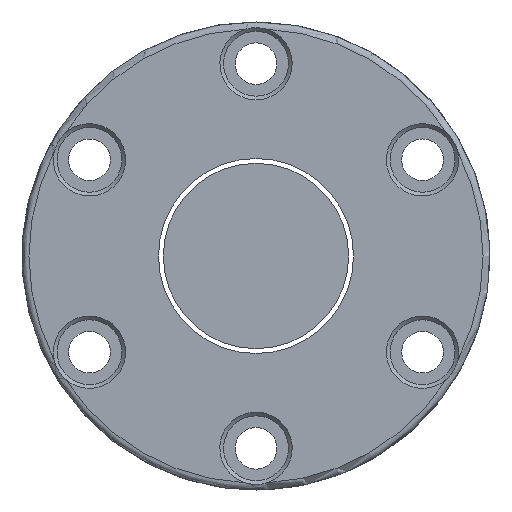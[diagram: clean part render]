
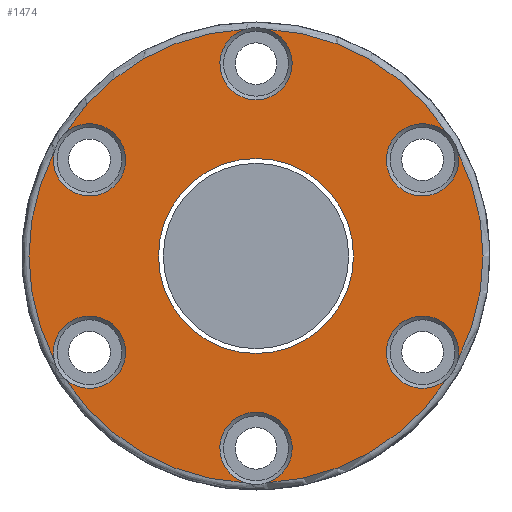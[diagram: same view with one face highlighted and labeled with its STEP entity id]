
A CAD part, left-side view. The second image highlights one B-rep face of the part: STEP entity #1474.
In plain terms, the highlighted planar face has unit normal (-1, 0, 0).
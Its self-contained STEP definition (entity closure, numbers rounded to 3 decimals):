
#36 = VERTEX_POINT ( 'NONE', #2769 ) ;
#50 = VERTEX_POINT ( 'NONE', #1867 ) ;
#80 = EDGE_CURVE ( 'NONE', #821, #2416, #1676, .T. ) ;
#82 = ORIENTED_EDGE ( 'NONE', *, *, #1214, .T. ) ;
#87 = CARTESIAN_POINT ( 'NONE',  ( -59., 0., -41.5 ) ) ;
#89 = DIRECTION ( 'NONE',  ( 0., 0., 1. ) ) ;
#93 = CARTESIAN_POINT ( 'NONE',  ( -59., 0., 0. ) ) ;
#119 = ORIENTED_EDGE ( 'NONE', *, *, #2979, .T. ) ;
#159 = CIRCLE ( 'NONE', #745, 7.8 ) ;
#165 = VERTEX_POINT ( 'NONE', #1744 ) ;
#230 = AXIS2_PLACEMENT_3D ( 'NONE', #2290, #2453, #1074 ) ;
#268 = CIRCLE ( 'NONE', #2262, 7.8 ) ;
#269 = VERTEX_POINT ( 'NONE', #2245 ) ;
#272 = AXIS2_PLACEMENT_3D ( 'NONE', #293, #1141, #2829 ) ;
#293 = CARTESIAN_POINT ( 'NONE',  ( -59., -35.94, 20.75 ) ) ;
#297 = ORIENTED_EDGE ( 'NONE', *, *, #758, .T. ) ;
#302 = CARTESIAN_POINT ( 'NONE',  ( -59., 0., -21.05 ) ) ;
#323 = AXIS2_PLACEMENT_3D ( 'NONE', #2960, #2036, #2757 ) ;
#332 = VERTEX_POINT ( 'NONE', #2135 ) ;
#338 = DIRECTION ( 'NONE',  ( 1., 0., 0. ) ) ;
#347 = EDGE_CURVE ( 'NONE', #332, #269, #1532, .T. ) ;
#357 = DIRECTION ( 'NONE',  ( 1., 0., 0. ) ) ;
#361 = VERTEX_POINT ( 'NONE', #1011 ) ;
#409 = CARTESIAN_POINT ( 'NONE',  ( -59., 0., 0. ) ) ;
#437 = ORIENTED_EDGE ( 'NONE', *, *, #2779, .T. ) ;
#438 = CARTESIAN_POINT ( 'NONE',  ( -59., -35.94, -20.75 ) ) ;
#441 = FACE_OUTER_BOUND ( 'NONE', #819, .T. ) ;
#498 = EDGE_CURVE ( 'NONE', #361, #165, #268, .T. ) ;
#521 = DIRECTION ( 'NONE',  ( 0., 0., 1. ) ) ;
#582 = CARTESIAN_POINT ( 'NONE',  ( -59., 0., 0. ) ) ;
#584 = CARTESIAN_POINT ( 'NONE',  ( -59., -41.224, 26.488 ) ) ;
#593 = AXIS2_PLACEMENT_3D ( 'NONE', #2086, #918, #1624 ) ;
#739 = EDGE_CURVE ( 'NONE', #1224, #50, #2763, .T. ) ;
#745 = AXIS2_PLACEMENT_3D ( 'NONE', #1477, #2186, #1465 ) ;
#756 = AXIS2_PLACEMENT_3D ( 'NONE', #87, #1476, #521 ) ;
#758 = EDGE_CURVE ( 'NONE', #1954, #821, #1052, .T. ) ;
#804 = ORIENTED_EDGE ( 'NONE', *, *, #1811, .T. ) ;
#806 = CIRCLE ( 'NONE', #272, 7.8 ) ;
#811 = CIRCLE ( 'NONE', #2125, 49. ) ;
#816 = DIRECTION ( 'NONE',  ( -1., 0., 0. ) ) ;
#819 = EDGE_LOOP ( 'NONE', ( #837, #2263, #119, #804, #2730, #2624, #2681, #437, #2462, #1279, #2967, #297 ) ) ;
#821 = VERTEX_POINT ( 'NONE', #1320 ) ;
#837 = ORIENTED_EDGE ( 'NONE', *, *, #80, .T. ) ;
#918 = DIRECTION ( 'NONE',  ( -1., 0., 0. ) ) ;
#1004 = EDGE_CURVE ( 'NONE', #1835, #1954, #806, .T. ) ;
#1011 = CARTESIAN_POINT ( 'NONE',  ( -59., 43.551, -22.457 ) ) ;
#1030 = DIRECTION ( 'NONE',  ( 0., 0., 1. ) ) ;
#1052 = CIRCLE ( 'NONE', #230, 49. ) ;
#1064 = CARTESIAN_POINT ( 'NONE',  ( -59., 0., 0. ) ) ;
#1074 = DIRECTION ( 'NONE',  ( 0., 0., 1. ) ) ;
#1115 = DIRECTION ( 'NONE',  ( 1., 0., 0. ) ) ;
#1118 = PLANE ( 'NONE',  #323 ) ;
#1141 = DIRECTION ( 'NONE',  ( 1., 0., 0. ) ) ;
#1210 = AXIS2_PLACEMENT_3D ( 'NONE', #1064, #816, #1030 ) ;
#1214 = EDGE_CURVE ( 'NONE', #2616, #2616, #1877, .T. ) ;
#1224 = VERTEX_POINT ( 'NONE', #1547 ) ;
#1279 = ORIENTED_EDGE ( 'NONE', *, *, #1703, .T. ) ;
#1291 = DIRECTION ( 'NONE',  ( 0., 0., -1. ) ) ;
#1311 = CARTESIAN_POINT ( 'NONE',  ( -59., -43.551, 22.457 ) ) ;
#1320 = CARTESIAN_POINT ( 'NONE',  ( -59., -2.327, 48.945 ) ) ;
#1336 = CIRCLE ( 'NONE', #1822, 49. ) ;
#1371 = DIRECTION ( 'NONE',  ( 0., 0., 1. ) ) ;
#1432 = DIRECTION ( 'NONE',  ( 0., 0., 1. ) ) ;
#1435 = VERTEX_POINT ( 'NONE', #2309 ) ;
#1454 = CARTESIAN_POINT ( 'NONE',  ( -59., 35.94, -20.75 ) ) ;
#1465 = DIRECTION ( 'NONE',  ( 0., 0., 1. ) ) ;
#1474 = ADVANCED_FACE ( 'NONE', ( #441, #1826 ), #1118, .T. ) ;
#1476 = DIRECTION ( 'NONE',  ( 1., 0., 0. ) ) ;
#1477 = CARTESIAN_POINT ( 'NONE',  ( -59., 35.94, 20.75 ) ) ;
#1483 = CARTESIAN_POINT ( 'NONE',  ( -59., 0., 0. ) ) ;
#1532 = CIRCLE ( 'NONE', #756, 7.8 ) ;
#1547 = CARTESIAN_POINT ( 'NONE',  ( -59., -41.224, -26.488 ) ) ;
#1624 = DIRECTION ( 'NONE',  ( 0., 0., 1. ) ) ;
#1676 = CIRCLE ( 'NONE', #2019, 7.8 ) ;
#1703 = EDGE_CURVE ( 'NONE', #50, #1835, #2654, .T. ) ;
#1709 = DIRECTION ( 'NONE',  ( 0., 0., 1. ) ) ;
#1744 = CARTESIAN_POINT ( 'NONE',  ( -59., 41.224, -26.488 ) ) ;
#1760 = CIRCLE ( 'NONE', #593, 49. ) ;
#1810 = DIRECTION ( 'NONE',  ( 0., 0., 1. ) ) ;
#1811 = EDGE_CURVE ( 'NONE', #1435, #361, #811, .T. ) ;
#1822 = AXIS2_PLACEMENT_3D ( 'NONE', #409, #2261, #1810 ) ;
#1826 = FACE_BOUND ( 'NONE', #2470, .T. ) ;
#1835 = VERTEX_POINT ( 'NONE', #1311 ) ;
#1843 = EDGE_CURVE ( 'NONE', #2416, #36, #1972, .T. ) ;
#1867 = CARTESIAN_POINT ( 'NONE',  ( -59., -43.551, -22.457 ) ) ;
#1877 = CIRCLE ( 'NONE', #2706, 21.05 ) ;
#1954 = VERTEX_POINT ( 'NONE', #584 ) ;
#1972 = CIRCLE ( 'NONE', #1210, 49. ) ;
#2019 = AXIS2_PLACEMENT_3D ( 'NONE', #2327, #2354, #1432 ) ;
#2036 = DIRECTION ( 'NONE',  ( -1., 0., 0. ) ) ;
#2072 = EDGE_CURVE ( 'NONE', #165, #332, #1760, .T. ) ;
#2086 = CARTESIAN_POINT ( 'NONE',  ( -59., 0., 0. ) ) ;
#2125 = AXIS2_PLACEMENT_3D ( 'NONE', #93, #2912, #1709 ) ;
#2135 = CARTESIAN_POINT ( 'NONE',  ( -59., 2.327, -48.945 ) ) ;
#2186 = DIRECTION ( 'NONE',  ( 1., 0., 0. ) ) ;
#2245 = CARTESIAN_POINT ( 'NONE',  ( -59., -2.327, -48.945 ) ) ;
#2261 = DIRECTION ( 'NONE',  ( -1., 0., 0. ) ) ;
#2262 = AXIS2_PLACEMENT_3D ( 'NONE', #1454, #338, #89 ) ;
#2263 = ORIENTED_EDGE ( 'NONE', *, *, #1843, .T. ) ;
#2268 = AXIS2_PLACEMENT_3D ( 'NONE', #438, #1115, #1371 ) ;
#2290 = CARTESIAN_POINT ( 'NONE',  ( -59., 0., 0. ) ) ;
#2309 = CARTESIAN_POINT ( 'NONE',  ( -59., 43.551, 22.457 ) ) ;
#2327 = CARTESIAN_POINT ( 'NONE',  ( -59., 0., 41.5 ) ) ;
#2354 = DIRECTION ( 'NONE',  ( 1., 0., 0. ) ) ;
#2416 = VERTEX_POINT ( 'NONE', #2419 ) ;
#2419 = CARTESIAN_POINT ( 'NONE',  ( -59., 2.327, 48.945 ) ) ;
#2453 = DIRECTION ( 'NONE',  ( -1., 0., 0. ) ) ;
#2459 = DIRECTION ( 'NONE',  ( 0., 0., 1. ) ) ;
#2462 = ORIENTED_EDGE ( 'NONE', *, *, #739, .T. ) ;
#2470 = EDGE_LOOP ( 'NONE', ( #82 ) ) ;
#2517 = AXIS2_PLACEMENT_3D ( 'NONE', #1483, #2656, #2459 ) ;
#2616 = VERTEX_POINT ( 'NONE', #302 ) ;
#2624 = ORIENTED_EDGE ( 'NONE', *, *, #2072, .T. ) ;
#2654 = CIRCLE ( 'NONE', #2517, 49. ) ;
#2656 = DIRECTION ( 'NONE',  ( -1., 0., 0. ) ) ;
#2681 = ORIENTED_EDGE ( 'NONE', *, *, #347, .T. ) ;
#2706 = AXIS2_PLACEMENT_3D ( 'NONE', #582, #357, #1291 ) ;
#2730 = ORIENTED_EDGE ( 'NONE', *, *, #498, .T. ) ;
#2757 = DIRECTION ( 'NONE',  ( 0., 0., 1. ) ) ;
#2763 = CIRCLE ( 'NONE', #2268, 7.8 ) ;
#2769 = CARTESIAN_POINT ( 'NONE',  ( -59., 41.224, 26.488 ) ) ;
#2779 = EDGE_CURVE ( 'NONE', #269, #1224, #1336, .T. ) ;
#2829 = DIRECTION ( 'NONE',  ( 0., 0., 1. ) ) ;
#2912 = DIRECTION ( 'NONE',  ( -1., 0., 0. ) ) ;
#2960 = CARTESIAN_POINT ( 'NONE',  ( -59., 50.5, 0. ) ) ;
#2967 = ORIENTED_EDGE ( 'NONE', *, *, #1004, .T. ) ;
#2979 = EDGE_CURVE ( 'NONE', #36, #1435, #159, .T. ) ;
